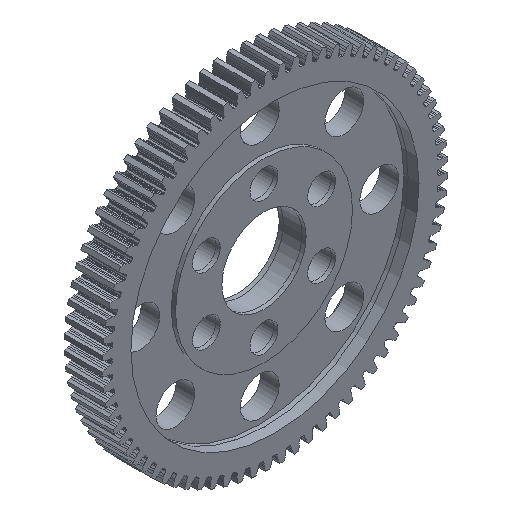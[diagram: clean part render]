
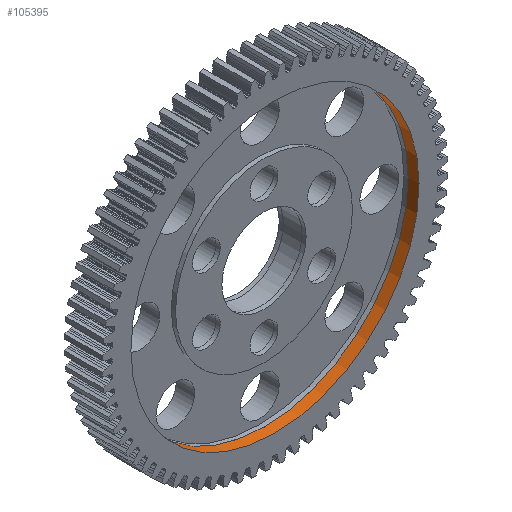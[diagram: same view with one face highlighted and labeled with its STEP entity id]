
A CAD part, isometric view. The second image highlights one B-rep face of the part: STEP entity #105395.
In plain terms, the highlighted cylindrical face has radius 17.098 mm (diameter 34.196 mm), a full revolution.
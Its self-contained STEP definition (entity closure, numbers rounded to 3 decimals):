
#126 = PLANE('',#127);
#127 = AXIS2_PLACEMENT_3D('',#128,#129,#130);
#128 = CARTESIAN_POINT('',(0.,-4.5,0.)
  );
#129 = DIRECTION('',(0.,1.,0.));
#130 = DIRECTION('',(0.,-0.,1.));
#38002 = EDGE_CURVE('',#38003,#38003,#38005,.T.);
#38003 = VERTEX_POINT('',#38004);
#38004 = CARTESIAN_POINT('',(0.,-4.5,17.098));
#38005 = SURFACE_CURVE('',#38006,(#38011,#38018),.PCURVE_S1.);
#38006 = CIRCLE('',#38007,17.098);
#38007 = AXIS2_PLACEMENT_3D('',#38008,#38009,#38010);
#38008 = CARTESIAN_POINT('',(0.,-4.5,0.));
#38009 = DIRECTION('',(0.,1.,0.));
#38010 = DIRECTION('',(0.,-0.,1.));
#38011 = PCURVE('',#126,#38012);
#38012 = DEFINITIONAL_REPRESENTATION('',(#38013),#38017);
#38013 = CIRCLE('',#38014,17.098);
#38014 = AXIS2_PLACEMENT_2D('',#38015,#38016);
#38015 = CARTESIAN_POINT('',(0.,0.));
#38016 = DIRECTION('',(1.,0.));
#38017 = ( GEOMETRIC_REPRESENTATION_CONTEXT(2) 
PARAMETRIC_REPRESENTATION_CONTEXT() REPRESENTATION_CONTEXT('2D SPACE',''
  ) );
#38018 = PCURVE('',#38019,#38024);
#38019 = CYLINDRICAL_SURFACE('',#38020,17.098);
#38020 = AXIS2_PLACEMENT_3D('',#38021,#38022,#38023);
#38021 = CARTESIAN_POINT('',(0.,-4.5,0.));
#38022 = DIRECTION('',(-0.,-1.,-0.));
#38023 = DIRECTION('',(0.,-0.,1.));
#38024 = DEFINITIONAL_REPRESENTATION('',(#38025),#38029);
#38025 = LINE('',#38026,#38027);
#38026 = CARTESIAN_POINT('',(-0.,0.));
#38027 = VECTOR('',#38028,1.);
#38028 = DIRECTION('',(-1.,0.));
#38029 = ( GEOMETRIC_REPRESENTATION_CONTEXT(2) 
PARAMETRIC_REPRESENTATION_CONTEXT() REPRESENTATION_CONTEXT('2D SPACE',''
  ) );
#105395 = ADVANCED_FACE('',(#105396),#38019,.F.);
#105396 = FACE_BOUND('',#105397,.T.);
#105397 = EDGE_LOOP('',(#105398,#105421,#105448,#105449));
#105398 = ORIENTED_EDGE('',*,*,#105399,.T.);
#105399 = EDGE_CURVE('',#38003,#105400,#105402,.T.);
#105400 = VERTEX_POINT('',#105401);
#105401 = CARTESIAN_POINT('',(0.,-3.2,17.098));
#105402 = SEAM_CURVE('',#105403,(#105407,#105414),.PCURVE_S1.);
#105403 = LINE('',#105404,#105405);
#105404 = CARTESIAN_POINT('',(0.,-4.5,17.098));
#105405 = VECTOR('',#105406,1.);
#105406 = DIRECTION('',(0.,1.,0.));
#105407 = PCURVE('',#38019,#105408);
#105408 = DEFINITIONAL_REPRESENTATION('',(#105409),#105413);
#105409 = LINE('',#105410,#105411);
#105410 = CARTESIAN_POINT('',(-0.,0.));
#105411 = VECTOR('',#105412,1.);
#105412 = DIRECTION('',(-0.,-1.));
#105413 = ( GEOMETRIC_REPRESENTATION_CONTEXT(2) 
PARAMETRIC_REPRESENTATION_CONTEXT() REPRESENTATION_CONTEXT('2D SPACE',''
  ) );
#105414 = PCURVE('',#38019,#105415);
#105415 = DEFINITIONAL_REPRESENTATION('',(#105416),#105420);
#105416 = LINE('',#105417,#105418);
#105417 = CARTESIAN_POINT('',(-6.283,0.));
#105418 = VECTOR('',#105419,1.);
#105419 = DIRECTION('',(-0.,-1.));
#105420 = ( GEOMETRIC_REPRESENTATION_CONTEXT(2) 
PARAMETRIC_REPRESENTATION_CONTEXT() REPRESENTATION_CONTEXT('2D SPACE',''
  ) );
#105421 = ORIENTED_EDGE('',*,*,#105422,.T.);
#105422 = EDGE_CURVE('',#105400,#105400,#105423,.T.);
#105423 = SURFACE_CURVE('',#105424,(#105429,#105436),.PCURVE_S1.);
#105424 = CIRCLE('',#105425,17.098);
#105425 = AXIS2_PLACEMENT_3D('',#105426,#105427,#105428);
#105426 = CARTESIAN_POINT('',(0.,-3.2,0.));
#105427 = DIRECTION('',(0.,1.,0.));
#105428 = DIRECTION('',(0.,-0.,1.));
#105429 = PCURVE('',#38019,#105430);
#105430 = DEFINITIONAL_REPRESENTATION('',(#105431),#105435);
#105431 = LINE('',#105432,#105433);
#105432 = CARTESIAN_POINT('',(-0.,-1.3));
#105433 = VECTOR('',#105434,1.);
#105434 = DIRECTION('',(-1.,0.));
#105435 = ( GEOMETRIC_REPRESENTATION_CONTEXT(2) 
PARAMETRIC_REPRESENTATION_CONTEXT() REPRESENTATION_CONTEXT('2D SPACE',''
  ) );
#105436 = PCURVE('',#105437,#105442);
#105437 = PLANE('',#105438);
#105438 = AXIS2_PLACEMENT_3D('',#105439,#105440,#105441);
#105439 = CARTESIAN_POINT('',(0.,-3.2,
    0.));
#105440 = DIRECTION('',(0.,1.,0.));
#105441 = DIRECTION('',(0.,-0.,1.));
#105442 = DEFINITIONAL_REPRESENTATION('',(#105443),#105447);
#105443 = CIRCLE('',#105444,17.098);
#105444 = AXIS2_PLACEMENT_2D('',#105445,#105446);
#105445 = CARTESIAN_POINT('',(0.,0.));
#105446 = DIRECTION('',(1.,0.));
#105447 = ( GEOMETRIC_REPRESENTATION_CONTEXT(2) 
PARAMETRIC_REPRESENTATION_CONTEXT() REPRESENTATION_CONTEXT('2D SPACE',''
  ) );
#105448 = ORIENTED_EDGE('',*,*,#105399,.F.);
#105449 = ORIENTED_EDGE('',*,*,#38002,.F.);
